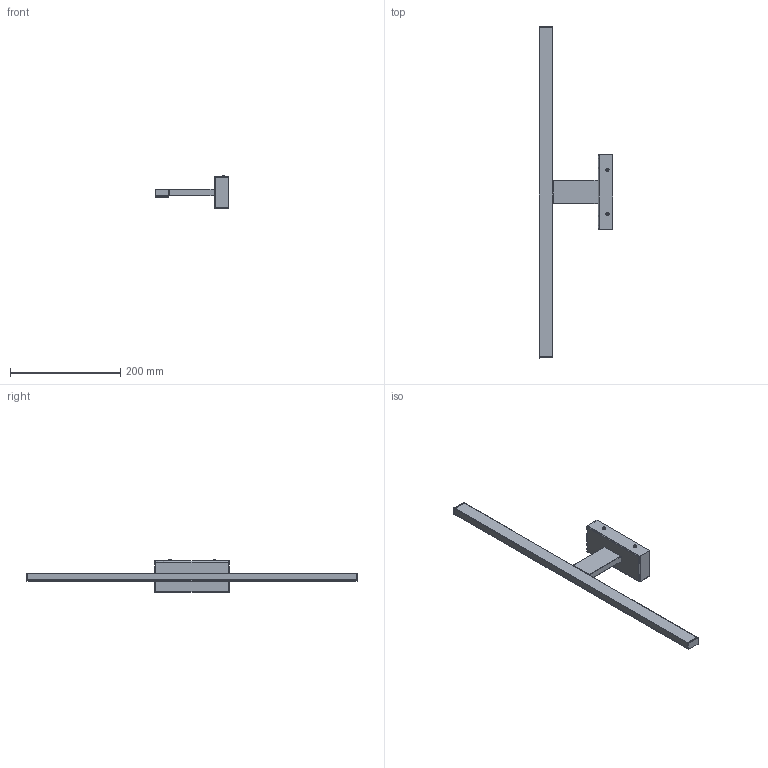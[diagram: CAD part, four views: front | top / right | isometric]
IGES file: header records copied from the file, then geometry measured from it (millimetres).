
Start section: SolidWorks IGES file using NURBS representation for surfaces
Global section: file name: Z:\Modele 3D_WWW\_KOLEKCJE_WWW\PICASSO-LED-8131\PICASSO-LED-8131.IGS; native system: SolidWorks 2021; preprocessor: SolidWorks 2021; author: gabriela.tworek; date: 210930.075651; units: millimetre
Bounding box: 134 x 601.45 x 59.38 mm (x, y, z)
Surface area: 140727.8 mm2 (no closed solid volume)
Topology: 0 solids, 0 shells, 243 faces, 1648 edges, 1612 vertices
Faces by surface type: bspline 243
